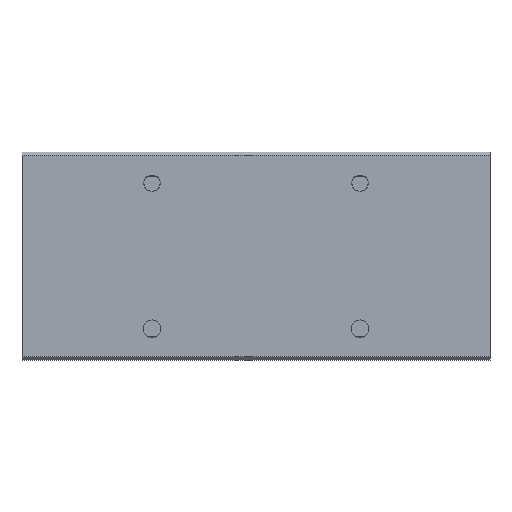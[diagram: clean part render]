
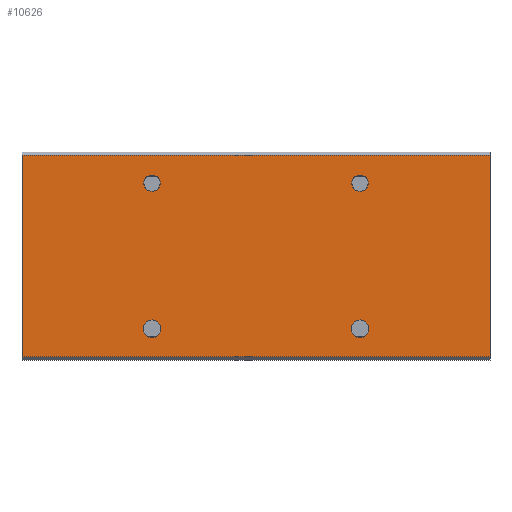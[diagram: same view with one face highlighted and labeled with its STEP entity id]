
A CAD part, front view. The second image highlights one B-rep face of the part: STEP entity #10626.
In plain terms, the highlighted planar face has unit normal (0, -1, 0).
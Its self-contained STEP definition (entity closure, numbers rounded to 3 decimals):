
#385=CIRCLE('',#11257,0.857);
#386=CIRCLE('',#11262,0.857);
#393=CIRCLE('',#11275,0.784);
#394=CIRCLE('',#11278,0.784);
#1525=ORIENTED_EDGE('',*,*,#4365,.F.);
#1526=ORIENTED_EDGE('',*,*,#4363,.F.);
#1527=ORIENTED_EDGE('',*,*,#4347,.F.);
#1528=ORIENTED_EDGE('',*,*,#4343,.F.);
#1529=ORIENTED_EDGE('',*,*,#4320,.T.);
#1530=ORIENTED_EDGE('',*,*,#4757,.F.);
#1531=ORIENTED_EDGE('',*,*,#4303,.F.);
#1532=ORIENTED_EDGE('',*,*,#4756,.T.);
#4303=EDGE_CURVE('',#5929,#5930,#7030,.T.);
#4320=EDGE_CURVE('',#5947,#5946,#7047,.T.);
#4343=EDGE_CURVE('',#5965,#5965,#385,.T.);
#4347=EDGE_CURVE('',#5968,#5968,#386,.T.);
#4363=EDGE_CURVE('',#5979,#5979,#393,.T.);
#4365=EDGE_CURVE('',#5980,#5980,#394,.T.);
#4756=EDGE_CURVE('',#5929,#5947,#7211,.T.);
#4757=EDGE_CURVE('',#5930,#5946,#7212,.T.);
#5929=VERTEX_POINT('',#16044);
#5930=VERTEX_POINT('',#16046);
#5946=VERTEX_POINT('',#16079);
#5947=VERTEX_POINT('',#16081);
#5965=VERTEX_POINT('',#16125);
#5968=VERTEX_POINT('',#16133);
#5979=VERTEX_POINT('',#16163);
#5980=VERTEX_POINT('',#16167);
#7030=LINE('',#16045,#7996);
#7047=LINE('',#16080,#8013);
#7211=LINE('',#16947,#8177);
#7212=LINE('',#16949,#8178);
#7996=VECTOR('',#12534,1000.);
#8013=VECTOR('',#12553,1000.);
#8177=VECTOR('',#13283,1000.);
#8178=VECTOR('',#13286,1000.);
#8992=EDGE_LOOP('',(#1525));
#8993=EDGE_LOOP('',(#1526));
#8994=EDGE_LOOP('',(#1527));
#8995=EDGE_LOOP('',(#1528));
#8996=EDGE_LOOP('',(#1529,#1530,#1531,#1532));
#9693=FACE_BOUND('',#8992,.T.);
#9694=FACE_BOUND('',#8993,.T.);
#9695=FACE_BOUND('',#8994,.T.);
#9696=FACE_BOUND('',#8995,.T.);
#9697=FACE_BOUND('',#8996,.T.);
#10357=PLANE('',#11535);
#10626=ADVANCED_FACE('',(#9693,#9694,#9695,#9696,#9697),#10357,.F.);
#11257=AXIS2_PLACEMENT_3D('',#16124,#12584,#12585);
#11262=AXIS2_PLACEMENT_3D('',#16132,#12594,#12595);
#11275=AXIS2_PLACEMENT_3D('',#16162,#12626,#12627);
#11278=AXIS2_PLACEMENT_3D('',#16166,#12632,#12633);
#11535=AXIS2_PLACEMENT_3D('',#16948,#13284,#13285);
#12534=DIRECTION('',(0.,0.,-1.));
#12553=DIRECTION('',(0.,0.,-1.));
#12584=DIRECTION('',(0.,-1.,0.));
#12585=DIRECTION('',(0.,0.,-1.));
#12594=DIRECTION('',(0.,-1.,0.));
#12595=DIRECTION('',(0.,0.,-1.));
#12626=DIRECTION('',(0.,-1.,0.));
#12627=DIRECTION('',(0.,0.,-1.));
#12632=DIRECTION('',(0.,-1.,0.));
#12633=DIRECTION('',(0.,0.,-1.));
#13283=DIRECTION('',(-1.,0.,0.));
#13284=DIRECTION('',(0.,1.,0.));
#13285=DIRECTION('',(0.,0.,1.));
#13286=DIRECTION('',(-1.,0.,0.));
#16044=CARTESIAN_POINT('',(45.,0.,9.7));
#16045=CARTESIAN_POINT('',(45.,0.,9.7));
#16046=CARTESIAN_POINT('',(45.,0.,-9.7));
#16079=CARTESIAN_POINT('',(0.,0.,-9.7));
#16080=CARTESIAN_POINT('',(0.,0.,9.7));
#16081=CARTESIAN_POINT('',(0.,0.,9.7));
#16124=CARTESIAN_POINT('',(12.5,0.,-7.));
#16125=CARTESIAN_POINT('',(12.5,0.,-7.857));
#16132=CARTESIAN_POINT('',(32.5,0.,-7.));
#16133=CARTESIAN_POINT('',(32.5,0.,-7.857));
#16162=CARTESIAN_POINT('',(12.5,0.,7.));
#16163=CARTESIAN_POINT('',(12.5,0.,6.217));
#16166=CARTESIAN_POINT('',(32.5,0.,7.));
#16167=CARTESIAN_POINT('',(32.5,0.,6.217));
#16947=CARTESIAN_POINT('',(45.,0.,9.7));
#16948=CARTESIAN_POINT('',(45.,0.,9.7));
#16949=CARTESIAN_POINT('',(45.,0.,-9.7));
